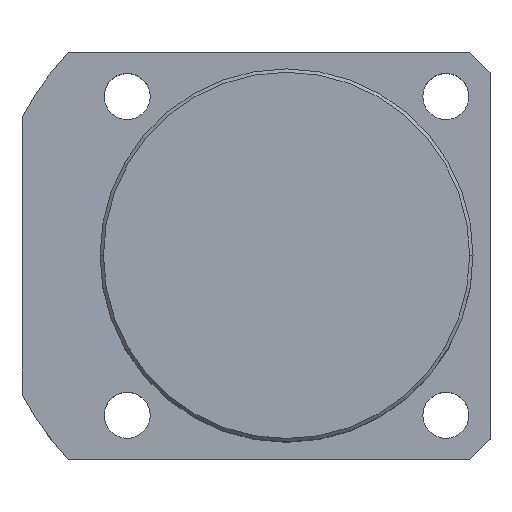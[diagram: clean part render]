
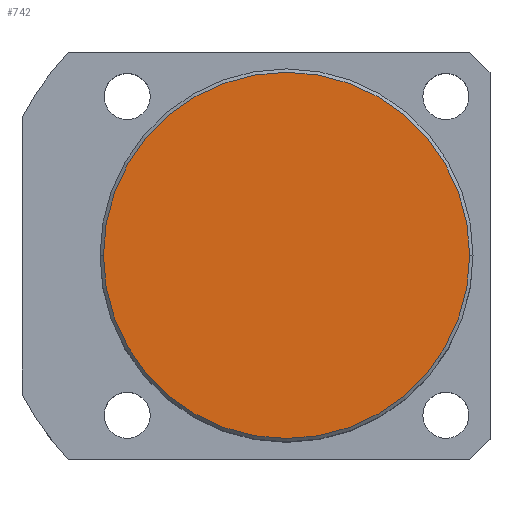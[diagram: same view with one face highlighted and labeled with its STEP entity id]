
A CAD part, top view. The second image highlights one B-rep face of the part: STEP entity #742.
In plain terms, the highlighted planar face has unit normal (0, 0, 1).
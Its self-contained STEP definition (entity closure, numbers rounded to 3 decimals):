
#82 = DIRECTION ( 'NONE',  ( 0., 0., 1. ) ) ;
#207 = VERTEX_POINT ( 'NONE', #761 ) ;
#211 = CARTESIAN_POINT ( 'NONE',  ( 0., 0., 50. ) ) ;
#346 = DIRECTION ( 'NONE',  ( 1., 0., 0. ) ) ;
#462 = CIRCLE ( 'NONE', #1230, 27. ) ;
#485 = FACE_OUTER_BOUND ( 'NONE', #940, .T. ) ;
#605 = CARTESIAN_POINT ( 'NONE',  ( 0., 0., 50. ) ) ;
#668 = ORIENTED_EDGE ( 'NONE', *, *, #1249, .T. ) ;
#677 = EDGE_CURVE ( 'NONE', #716, #207, #462, .T. ) ;
#716 = VERTEX_POINT ( 'NONE', #1188 ) ;
#727 = ORIENTED_EDGE ( 'NONE', *, *, #677, .T. ) ;
#742 = ADVANCED_FACE ( 'NONE', ( #485 ), #1358, .T. ) ;
#761 = CARTESIAN_POINT ( 'NONE',  ( 27., 0., 50. ) ) ;
#922 = CARTESIAN_POINT ( 'NONE',  ( 0., 0., 50. ) ) ;
#940 = EDGE_LOOP ( 'NONE', ( #727, #668 ) ) ;
#1085 = CIRCLE ( 'NONE', #1822, 27. ) ;
#1177 = DIRECTION ( 'NONE',  ( 0., 0., 1. ) ) ;
#1188 = CARTESIAN_POINT ( 'NONE',  ( -27., 0., 50. ) ) ;
#1230 = AXIS2_PLACEMENT_3D ( 'NONE', #605, #1588, #1454 ) ;
#1249 = EDGE_CURVE ( 'NONE', #207, #716, #1085, .T. ) ;
#1328 = AXIS2_PLACEMENT_3D ( 'NONE', #922, #82, #346 ) ;
#1358 = PLANE ( 'NONE',  #1328 ) ;
#1454 = DIRECTION ( 'NONE',  ( 1., 0., 0. ) ) ;
#1466 = DIRECTION ( 'NONE',  ( 1., 0., 0. ) ) ;
#1588 = DIRECTION ( 'NONE',  ( 0., 0., 1. ) ) ;
#1822 = AXIS2_PLACEMENT_3D ( 'NONE', #211, #1177, #1466 ) ;
